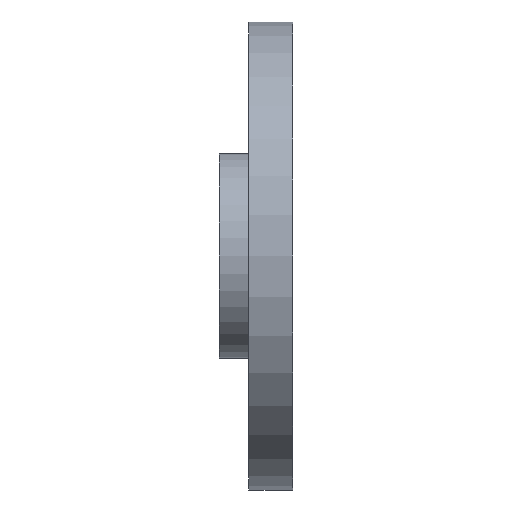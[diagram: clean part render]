
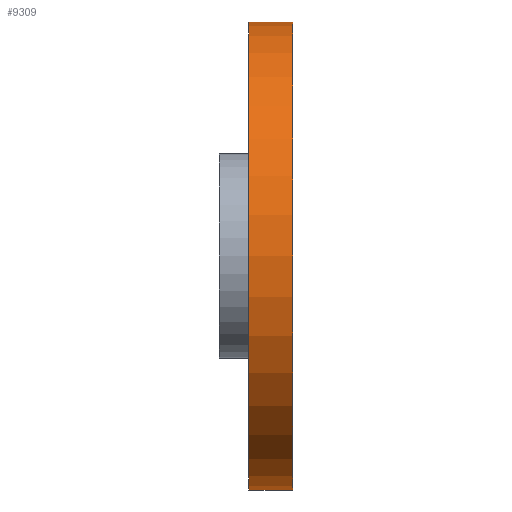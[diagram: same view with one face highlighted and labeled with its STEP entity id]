
A CAD part, left-side view. The second image highlights one B-rep face of the part: STEP entity #9309.
In plain terms, the highlighted cylindrical face has radius 16 mm (diameter 32 mm), a partial arc.
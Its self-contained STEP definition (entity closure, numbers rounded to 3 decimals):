
#457 = DIRECTION ( 'NONE',  ( 0., 0., -1. ) ) ;
#549 = DIRECTION ( 'NONE',  ( 0., 1., 0. ) ) ;
#765 = EDGE_CURVE ( 'NONE', #15272, #8925, #11633, .T. ) ;
#950 = CARTESIAN_POINT ( 'NONE',  ( 0., 3., 16. ) ) ;
#1295 = CYLINDRICAL_SURFACE ( 'NONE', #5309, 16. ) ;
#1587 = CARTESIAN_POINT ( 'NONE',  ( 0., 0., 16. ) ) ;
#1745 = DIRECTION ( 'NONE',  ( 0., 0., 1. ) ) ;
#2272 = FACE_OUTER_BOUND ( 'NONE', #5245, .T. ) ;
#2523 = AXIS2_PLACEMENT_3D ( 'NONE', #11634, #549, #1745 ) ;
#3253 = DIRECTION ( 'NONE',  ( 0., -1., 0. ) ) ;
#4442 = CARTESIAN_POINT ( 'NONE',  ( 0., 3., 16. ) ) ;
#5192 = VERTEX_POINT ( 'NONE', #950 ) ;
#5245 = EDGE_LOOP ( 'NONE', ( #8430, #12225, #8592, #11227 ) ) ;
#5309 = AXIS2_PLACEMENT_3D ( 'NONE', #11598, #15237, #457 ) ;
#5338 = LINE ( 'NONE', #5834, #12259 ) ;
#5742 = VERTEX_POINT ( 'NONE', #11264 ) ;
#5763 = AXIS2_PLACEMENT_3D ( 'NONE', #10506, #9217, #6840 ) ;
#5834 = CARTESIAN_POINT ( 'NONE',  ( 0., 3., -16. ) ) ;
#6479 = VECTOR ( 'NONE', #8419, 1000. ) ;
#6668 = LINE ( 'NONE', #4442, #6479 ) ;
#6840 = DIRECTION ( 'NONE',  ( 0., 0., 1. ) ) ;
#8025 = CIRCLE ( 'NONE', #2523, 16. ) ;
#8419 = DIRECTION ( 'NONE',  ( 0., -1., 0. ) ) ;
#8430 = ORIENTED_EDGE ( 'NONE', *, *, #14121, .F. ) ;
#8592 = ORIENTED_EDGE ( 'NONE', *, *, #14100, .T. ) ;
#8925 = VERTEX_POINT ( 'NONE', #1587 ) ;
#9112 = CARTESIAN_POINT ( 'NONE',  ( 0., 0., -16. ) ) ;
#9217 = DIRECTION ( 'NONE',  ( 0., 1., 0. ) ) ;
#9309 = ADVANCED_FACE ( 'NONE', ( #2272 ), #1295, .T. ) ;
#10387 = EDGE_CURVE ( 'NONE', #5742, #5192, #8025, .T. ) ;
#10506 = CARTESIAN_POINT ( 'NONE',  ( 0., 0., 0. ) ) ;
#11227 = ORIENTED_EDGE ( 'NONE', *, *, #765, .T. ) ;
#11264 = CARTESIAN_POINT ( 'NONE',  ( 0., 3., -16. ) ) ;
#11598 = CARTESIAN_POINT ( 'NONE',  ( 0., 3., 0. ) ) ;
#11633 = CIRCLE ( 'NONE', #5763, 16. ) ;
#11634 = CARTESIAN_POINT ( 'NONE',  ( 0., 3., 0. ) ) ;
#12225 = ORIENTED_EDGE ( 'NONE', *, *, #10387, .F. ) ;
#12259 = VECTOR ( 'NONE', #3253, 1000. ) ;
#14100 = EDGE_CURVE ( 'NONE', #5742, #15272, #5338, .T. ) ;
#14121 = EDGE_CURVE ( 'NONE', #5192, #8925, #6668, .T. ) ;
#15237 = DIRECTION ( 'NONE',  ( 0., -1., 0. ) ) ;
#15272 = VERTEX_POINT ( 'NONE', #9112 ) ;
